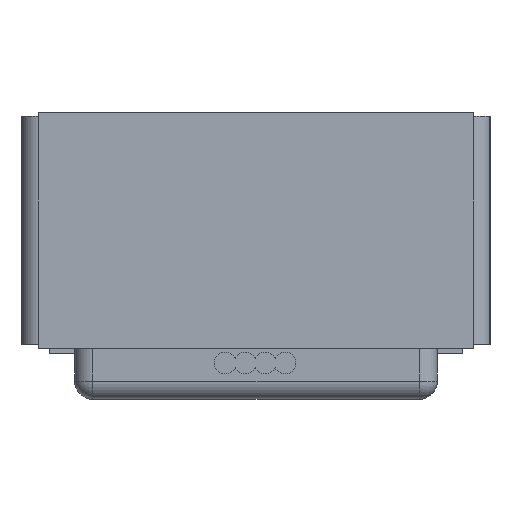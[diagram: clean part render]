
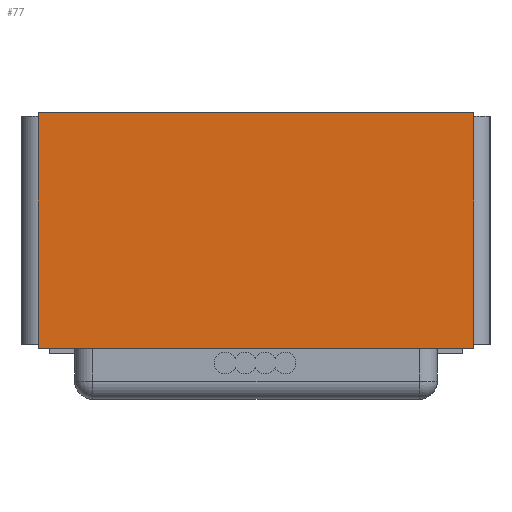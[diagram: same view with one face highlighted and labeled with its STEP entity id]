
A CAD part, left-side view. The second image highlights one B-rep face of the part: STEP entity #77.
In plain terms, the highlighted planar face has unit normal (-1, 0, 0).
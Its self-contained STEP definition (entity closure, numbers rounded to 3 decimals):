
#77 = ADVANCED_FACE ( 'NONE', ( #770 ), #830, .F. ) ;
#135 = CARTESIAN_POINT ( 'NONE',  ( -37., 12., 13. ) ) ;
#183 = DIRECTION ( 'NONE',  ( 0., 0., -1. ) ) ;
#266 = CARTESIAN_POINT ( 'NONE',  ( -37., 12., 0. ) ) ;
#398 = CARTESIAN_POINT ( 'NONE',  ( -37., 12., 13. ) ) ;
#709 = VECTOR ( 'NONE', #3677, 1000. ) ;
#726 = LINE ( 'NONE', #398, #896 ) ;
#750 = VERTEX_POINT ( 'NONE', #3185 ) ;
#770 = FACE_OUTER_BOUND ( 'NONE', #1269, .T. ) ;
#793 = DIRECTION ( 'NONE',  ( 1., 0., 0. ) ) ;
#830 = PLANE ( 'NONE',  #2642 ) ;
#867 = EDGE_CURVE ( 'NONE', #750, #1757, #3238, .T. ) ;
#896 = VECTOR ( 'NONE', #2539, 1000. ) ;
#998 = LINE ( 'NONE', #2017, #1896 ) ;
#1009 = CARTESIAN_POINT ( 'NONE',  ( -37., -12., 13. ) ) ;
#1269 = EDGE_LOOP ( 'NONE', ( #2183, #2589, #3408, #3235 ) ) ;
#1383 = DIRECTION ( 'NONE',  ( 0., 0., -1. ) ) ;
#1757 = VERTEX_POINT ( 'NONE', #2204 ) ;
#1892 = VERTEX_POINT ( 'NONE', #135 ) ;
#1896 = VECTOR ( 'NONE', #183, 1000. ) ;
#1926 = EDGE_CURVE ( 'NONE', #1892, #750, #726, .T. ) ;
#2017 = CARTESIAN_POINT ( 'NONE',  ( -37., -12., 13. ) ) ;
#2183 = ORIENTED_EDGE ( 'NONE', *, *, #867, .T. ) ;
#2204 = CARTESIAN_POINT ( 'NONE',  ( -37., -12., 0. ) ) ;
#2321 = DIRECTION ( 'NONE',  ( 0., -1., 0. ) ) ;
#2539 = DIRECTION ( 'NONE',  ( 0., 0., -1. ) ) ;
#2589 = ORIENTED_EDGE ( 'NONE', *, *, #3854, .F. ) ;
#2642 = AXIS2_PLACEMENT_3D ( 'NONE', #3925, #793, #1383 ) ;
#2764 = EDGE_CURVE ( 'NONE', #1892, #2832, #3678, .T. ) ;
#2832 = VERTEX_POINT ( 'NONE', #1009 ) ;
#2941 = VECTOR ( 'NONE', #2321, 1000. ) ;
#3185 = CARTESIAN_POINT ( 'NONE',  ( -37., 12., 0. ) ) ;
#3235 = ORIENTED_EDGE ( 'NONE', *, *, #1926, .T. ) ;
#3238 = LINE ( 'NONE', #266, #709 ) ;
#3311 = CARTESIAN_POINT ( 'NONE',  ( -37., 12., 13. ) ) ;
#3408 = ORIENTED_EDGE ( 'NONE', *, *, #2764, .F. ) ;
#3677 = DIRECTION ( 'NONE',  ( 0., -1., 0. ) ) ;
#3678 = LINE ( 'NONE', #3311, #2941 ) ;
#3854 = EDGE_CURVE ( 'NONE', #2832, #1757, #998, .T. ) ;
#3925 = CARTESIAN_POINT ( 'NONE',  ( -37., 12., 13. ) ) ;
